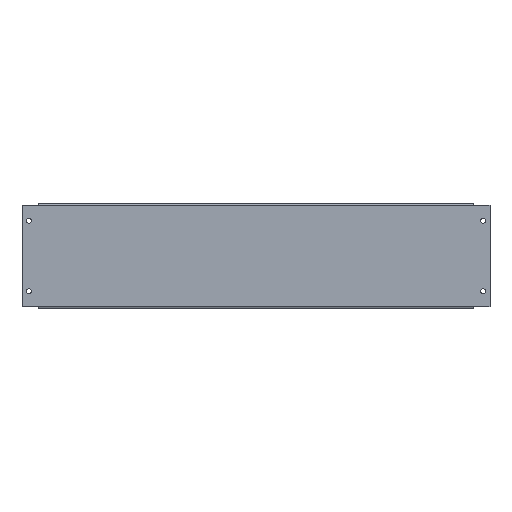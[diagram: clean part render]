
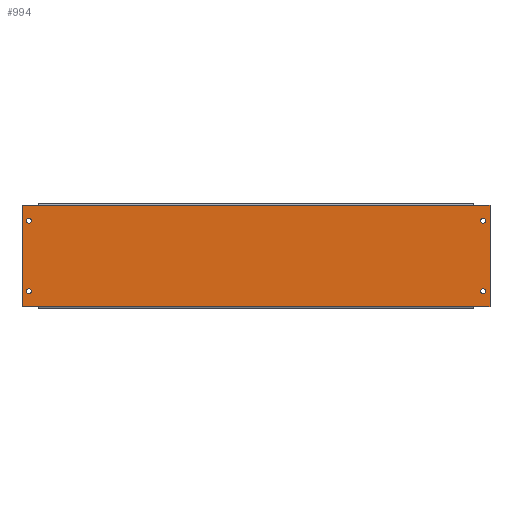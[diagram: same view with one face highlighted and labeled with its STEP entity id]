
A CAD part, top view. The second image highlights one B-rep face of the part: STEP entity #994.
In plain terms, the highlighted planar face has unit normal (0, 0, 1).
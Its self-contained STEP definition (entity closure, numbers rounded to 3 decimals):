
#20 = DIRECTION ( 'NONE',  ( 0., 1., 0. ) ) ;
#25 = CARTESIAN_POINT ( 'NONE',  ( 332.5, 74.5, 1.2 ) ) ;
#26 = LINE ( 'NONE', #25, #794 ) ;
#102 = DIRECTION ( 'NONE',  ( 0., 0., -1. ) ) ;
#108 = EDGE_LOOP ( 'NONE', ( #270, #252 ) ) ;
#112 = DIRECTION ( 'NONE',  ( 1., 0., 0. ) ) ;
#114 = CARTESIAN_POINT ( 'NONE',  ( 319.25, 50., 1.2 ) ) ;
#116 = EDGE_LOOP ( 'NONE', ( #262, #263 ) ) ;
#117 = EDGE_LOOP ( 'NONE', ( #268, #254 ) ) ;
#119 = EDGE_LOOP ( 'NONE', ( #253, #258, #267, #257, #255, #265, #256, #259 ) ) ;
#128 = EDGE_LOOP ( 'NONE', ( #260, #266 ) ) ;
#134 = CARTESIAN_POINT ( 'NONE',  ( 322.75, 50., 1.2 ) ) ;
#138 = CARTESIAN_POINT ( 'NONE',  ( -332.5, -72.1, 1.2 ) ) ;
#139 = DIRECTION ( 'NONE',  ( 1., 0., 0. ) ) ;
#141 = LINE ( 'NONE', #138, #760 ) ;
#165 = CARTESIAN_POINT ( 'NONE',  ( 322.75, 50., 1.2 ) ) ;
#167 = VERTEX_POINT ( 'NONE', #216 ) ;
#189 = VERTEX_POINT ( 'NONE', #214 ) ;
#190 = VERTEX_POINT ( 'NONE', #213 ) ;
#194 = DIRECTION ( 'NONE',  ( 0., 0., -1. ) ) ;
#202 = DIRECTION ( 'NONE',  ( 1., 0., 0. ) ) ;
#206 = CARTESIAN_POINT ( 'NONE',  ( 309.5, 72.1, 1.2 ) ) ;
#207 = CARTESIAN_POINT ( 'NONE',  ( 332.5, -72.1, 1.2 ) ) ;
#208 = CARTESIAN_POINT ( 'NONE',  ( 332.5, 72.1, 1.2 ) ) ;
#209 = CARTESIAN_POINT ( 'NONE',  ( 309.5, -72.1, 1.2 ) ) ;
#213 = CARTESIAN_POINT ( 'NONE',  ( 326.25, -50., 1.2 ) ) ;
#214 = CARTESIAN_POINT ( 'NONE',  ( 319.25, -50., 1.2 ) ) ;
#216 = CARTESIAN_POINT ( 'NONE',  ( 326.25, 50., 1.2 ) ) ;
#217 = VERTEX_POINT ( 'NONE', #209 ) ;
#219 = VERTEX_POINT ( 'NONE', #208 ) ;
#220 = VERTEX_POINT ( 'NONE', #207 ) ;
#221 = VERTEX_POINT ( 'NONE', #206 ) ;
#240 = DIRECTION ( 'NONE',  ( -1., 0., 0. ) ) ;
#244 = LINE ( 'NONE', #245, #734 ) ;
#245 = CARTESIAN_POINT ( 'NONE',  ( -332.5, 72.1, 1.2 ) ) ;
#246 = DIRECTION ( 'NONE',  ( 1., 0., 0. ) ) ;
#252 = ORIENTED_EDGE ( 'NONE', *, *, #930, .F. ) ;
#253 = ORIENTED_EDGE ( 'NONE', *, *, #1024, .T. ) ;
#254 = ORIENTED_EDGE ( 'NONE', *, *, #925, .T. ) ;
#255 = ORIENTED_EDGE ( 'NONE', *, *, #959, .T. ) ;
#256 = ORIENTED_EDGE ( 'NONE', *, *, #1021, .T. ) ;
#257 = ORIENTED_EDGE ( 'NONE', *, *, #1002, .T. ) ;
#258 = ORIENTED_EDGE ( 'NONE', *, *, #934, .T. ) ;
#259 = ORIENTED_EDGE ( 'NONE', *, *, #1035, .T. ) ;
#260 = ORIENTED_EDGE ( 'NONE', *, *, #1038, .T. ) ;
#262 = ORIENTED_EDGE ( 'NONE', *, *, #998, .F. ) ;
#263 = ORIENTED_EDGE ( 'NONE', *, *, #1046, .F. ) ;
#265 = ORIENTED_EDGE ( 'NONE', *, *, #951, .T. ) ;
#266 = ORIENTED_EDGE ( 'NONE', *, *, #1000, .T. ) ;
#267 = ORIENTED_EDGE ( 'NONE', *, *, #1016, .T. ) ;
#268 = ORIENTED_EDGE ( 'NONE', *, *, #937, .T. ) ;
#270 = ORIENTED_EDGE ( 'NONE', *, *, #929, .F. ) ;
#279 = CARTESIAN_POINT ( 'NONE',  ( -319.25, 50., 1.2 ) ) ;
#281 = VERTEX_POINT ( 'NONE', #295 ) ;
#282 = VERTEX_POINT ( 'NONE', #305 ) ;
#283 = DIRECTION ( 'NONE',  ( 0., 0., 1. ) ) ;
#284 = CARTESIAN_POINT ( 'NONE',  ( 322.75, -50., 1.2 ) ) ;
#295 = CARTESIAN_POINT ( 'NONE',  ( -309.5, -72.1, 1.2 ) ) ;
#305 = CARTESIAN_POINT ( 'NONE',  ( -332.5, -72.1, 1.2 ) ) ;
#332 = VERTEX_POINT ( 'NONE', #372 ) ;
#333 = VERTEX_POINT ( 'NONE', #279 ) ;
#334 = VERTEX_POINT ( 'NONE', #377 ) ;
#336 = VERTEX_POINT ( 'NONE', #425 ) ;
#337 = VERTEX_POINT ( 'NONE', #386 ) ;
#358 = VERTEX_POINT ( 'NONE', #114 ) ;
#372 = CARTESIAN_POINT ( 'NONE',  ( -326.25, 50., 1.2 ) ) ;
#377 = CARTESIAN_POINT ( 'NONE',  ( -332.5, 72.1, 1.2 ) ) ;
#380 = CARTESIAN_POINT ( 'NONE',  ( -309.5, 72.1, 1.2 ) ) ;
#383 = DIRECTION ( 'NONE',  ( 1., 0., 0. ) ) ;
#384 = DIRECTION ( 'NONE',  ( 0., 0., 1. ) ) ;
#386 = CARTESIAN_POINT ( 'NONE',  ( -319.25, -50., 1.2 ) ) ;
#409 = CARTESIAN_POINT ( 'NONE',  ( 322.75, -50., 1.2 ) ) ;
#423 = VERTEX_POINT ( 'NONE', #380 ) ;
#425 = CARTESIAN_POINT ( 'NONE',  ( -326.25, -50., 1.2 ) ) ;
#447 = AXIS2_PLACEMENT_3D ( 'NONE', #544, #543, #542 ) ;
#451 = VECTOR ( 'NONE', #547, 1000. ) ;
#454 = AXIS2_PLACEMENT_3D ( 'NONE', #534, #533, #532 ) ;
#481 = VECTOR ( 'NONE', #579, 1000. ) ;
#484 = VECTOR ( 'NONE', #570, 1000. ) ;
#532 = DIRECTION ( 'NONE',  ( 1., 0., 0. ) ) ;
#533 = DIRECTION ( 'NONE',  ( 0., 0., 1. ) ) ;
#534 = CARTESIAN_POINT ( 'NONE',  ( -322.75, 50., 1.2 ) ) ;
#542 = DIRECTION ( 'NONE',  ( 1., 0., 0. ) ) ;
#543 = DIRECTION ( 'NONE',  ( 0., 0., -1. ) ) ;
#544 = CARTESIAN_POINT ( 'NONE',  ( -322.75, -50., 1.2 ) ) ;
#547 = DIRECTION ( 'NONE',  ( -1., 0., 0. ) ) ;
#548 = CARTESIAN_POINT ( 'NONE',  ( -332.5, 72.1, 1.2 ) ) ;
#549 = LINE ( 'NONE', #548, #451 ) ;
#570 = DIRECTION ( 'NONE',  ( 0., -1., 0. ) ) ;
#571 = CARTESIAN_POINT ( 'NONE',  ( -332.5, 74.5, 1.2 ) ) ;
#572 = LINE ( 'NONE', #571, #484 ) ;
#579 = DIRECTION ( 'NONE',  ( -1., 0., 0. ) ) ;
#580 = CARTESIAN_POINT ( 'NONE',  ( 309.5, 72.1, 1.2 ) ) ;
#581 = LINE ( 'NONE', #580, #481 ) ;
#594 = DIRECTION ( 'NONE',  ( 1., 0., 0. ) ) ;
#595 = CARTESIAN_POINT ( 'NONE',  ( -309.5, -72.1, 1.2 ) ) ;
#596 = LINE ( 'NONE', #595, #873 ) ;
#618 = DIRECTION ( 'NONE',  ( 1., 0., 0. ) ) ;
#619 = CARTESIAN_POINT ( 'NONE',  ( -332.5, -72.1, 1.2 ) ) ;
#620 = LINE ( 'NONE', #619, #864 ) ;
#625 = DIRECTION ( 'NONE',  ( 1., 0., 0. ) ) ;
#626 = DIRECTION ( 'NONE',  ( 0., 0., -1. ) ) ;
#630 = CARTESIAN_POINT ( 'NONE',  ( -322.75, -50., 1.2 ) ) ;
#631 = DIRECTION ( 'NONE',  ( 1., 0., 0. ) ) ;
#632 = DIRECTION ( 'NONE',  ( 0., 0., 1. ) ) ;
#636 = CARTESIAN_POINT ( 'NONE',  ( -322.75, 50., 1.2 ) ) ;
#644 = DIRECTION ( 'NONE',  ( 1., 0., 0. ) ) ;
#646 = DIRECTION ( 'NONE',  ( 0., 0., 1. ) ) ;
#647 = CARTESIAN_POINT ( 'NONE',  ( -332.5, -74.5, 1.2 ) ) ;
#648 = PLANE ( 'NONE',  #851 ) ;
#734 = VECTOR ( 'NONE', #240, 1000. ) ;
#759 = AXIS2_PLACEMENT_3D ( 'NONE', #134, #102, #112 ) ;
#760 = VECTOR ( 'NONE', #139, 1000. ) ;
#766 = AXIS2_PLACEMENT_3D ( 'NONE', #284, #283, #246 ) ;
#769 = AXIS2_PLACEMENT_3D ( 'NONE', #409, #384, #383 ) ;
#770 = AXIS2_PLACEMENT_3D ( 'NONE', #165, #194, #202 ) ;
#794 = VECTOR ( 'NONE', #20, 1000. ) ;
#847 = FACE_BOUND ( 'NONE', #108, .T. ) ;
#851 = AXIS2_PLACEMENT_3D ( 'NONE', #647, #646, #644 ) ;
#852 = FACE_BOUND ( 'NONE', #117, .T. ) ;
#854 = FACE_BOUND ( 'NONE', #116, .T. ) ;
#856 = FACE_OUTER_BOUND ( 'NONE', #119, .T. ) ;
#858 = FACE_BOUND ( 'NONE', #128, .T. ) ;
#859 = AXIS2_PLACEMENT_3D ( 'NONE', #636, #632, #631 ) ;
#861 = AXIS2_PLACEMENT_3D ( 'NONE', #630, #626, #625 ) ;
#864 = VECTOR ( 'NONE', #618, 1000. ) ;
#873 = VECTOR ( 'NONE', #594, 1000. ) ;
#905 = CIRCLE ( 'NONE', #859, 3.5 ) ;
#908 = CIRCLE ( 'NONE', #861, 3.5 ) ;
#913 = CIRCLE ( 'NONE', #759, 3.5 ) ;
#916 = CIRCLE ( 'NONE', #766, 3.5 ) ;
#917 = CIRCLE ( 'NONE', #770, 3.5 ) ;
#925 = EDGE_CURVE ( 'NONE', #358, #167, #917, .T. ) ;
#929 = EDGE_CURVE ( 'NONE', #190, #189, #991, .T. ) ;
#930 = EDGE_CURVE ( 'NONE', #189, #190, #916, .T. ) ;
#934 = EDGE_CURVE ( 'NONE', #282, #281, #141, .T. ) ;
#937 = EDGE_CURVE ( 'NONE', #167, #358, #913, .T. ) ;
#951 = EDGE_CURVE ( 'NONE', #219, #221, #244, .T. ) ;
#959 = EDGE_CURVE ( 'NONE', #220, #219, #26, .T. ) ;
#991 = CIRCLE ( 'NONE', #769, 3.5 ) ;
#994 = ADVANCED_FACE ( 'NONE', ( #847, #852, #854, #856, #858 ), #648, .T. ) ;
#998 = EDGE_CURVE ( 'NONE', #333, #332, #905, .T. ) ;
#1000 = EDGE_CURVE ( 'NONE', #336, #337, #908, .T. ) ;
#1002 = EDGE_CURVE ( 'NONE', #217, #220, #620, .T. ) ;
#1016 = EDGE_CURVE ( 'NONE', #281, #217, #596, .T. ) ;
#1021 = EDGE_CURVE ( 'NONE', #221, #423, #581, .T. ) ;
#1024 = EDGE_CURVE ( 'NONE', #334, #282, #572, .T. ) ;
#1028 = CIRCLE ( 'NONE', #447, 3.5 ) ;
#1035 = EDGE_CURVE ( 'NONE', #423, #334, #549, .T. ) ;
#1036 = CIRCLE ( 'NONE', #454, 3.5 ) ;
#1038 = EDGE_CURVE ( 'NONE', #337, #336, #1028, .T. ) ;
#1046 = EDGE_CURVE ( 'NONE', #332, #333, #1036, .T. ) ;
